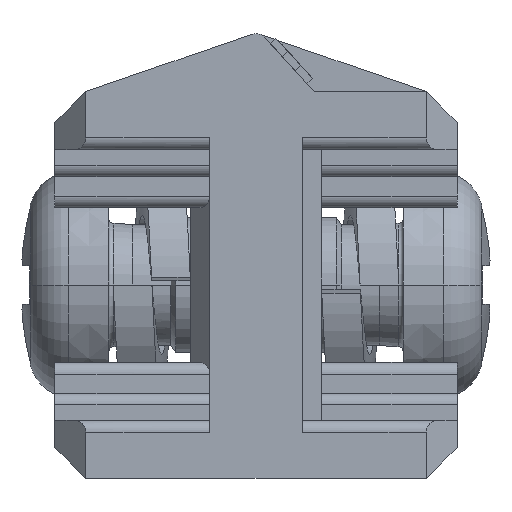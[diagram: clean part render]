
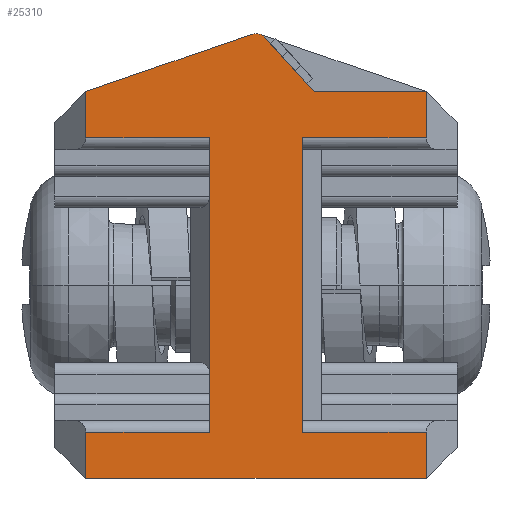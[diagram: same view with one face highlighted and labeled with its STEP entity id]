
A CAD part, left-side view. The second image highlights one B-rep face of the part: STEP entity #25310.
In plain terms, the highlighted planar face has unit normal (-1, 0, 0).
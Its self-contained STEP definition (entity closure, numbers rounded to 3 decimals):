
#24030=CARTESIAN_POINT('',(-63.402,-81.392,
0.));
#24040=DIRECTION('',(1.,-0.,0.));
#24050=DIRECTION('',(0.,0.,-1.));
#24060=AXIS2_PLACEMENT_3D('',#24030,#24040,#24050);
#24070=PLANE('',#24060);
#24080=CARTESIAN_POINT('',(-63.402,-66.942,
5.));
#24090=DIRECTION('',(0.,-0.945,0.326));
#24100=VECTOR('',#24090,1.);
#24110=LINE('',#24080,#24100);
#24120=CARTESIAN_POINT('',(-63.402,-66.942,
5.));
#24130=VERTEX_POINT('',#24120);
#24140=CARTESIAN_POINT('',(-63.402,-71.244,
6.483));
#24150=VERTEX_POINT('',#24140);
#24160=EDGE_CURVE('',#24130,#24150,#24110,.T.);
#24170=ORIENTED_EDGE('',*,*,#24160,.F.);
#24180=CARTESIAN_POINT('',(-63.402,-71.342,
6.2));
#24190=DIRECTION('',(-1.,0.,0.));
#24200=DIRECTION('',(0.,-1.,0.));
#24210=AXIS2_PLACEMENT_3D('',#24180,#24190,#24200);
#24220=CIRCLE('',#24210,0.3);
#24230=CARTESIAN_POINT('',(-63.402,-71.564,
6.402));
#24240=VERTEX_POINT('',#24230);
#24250=EDGE_CURVE('',#24240,#24150,#24220,.T.);
#24260=ORIENTED_EDGE('',*,*,#24250,.T.);
#24270=CARTESIAN_POINT('',(-63.402,-72.842,
5.));
#24280=DIRECTION('',(0.,0.674,0.739));
#24290=VECTOR('',#24280,1.);
#24300=LINE('',#24270,#24290);
#24310=CARTESIAN_POINT('',(-63.402,-72.842,
5.));
#24320=VERTEX_POINT('',#24310);
#24330=EDGE_CURVE('',#24320,#24240,#24300,.T.);
#24340=ORIENTED_EDGE('',*,*,#24330,.T.);
#24350=CARTESIAN_POINT('',(-63.402,-81.392,
5.));
#24360=DIRECTION('',(0.,1.,0.));
#24370=VECTOR('',#24360,1.);
#24380=LINE('',#24350,#24370);
#24390=CARTESIAN_POINT('',(-63.402,-75.742,
5.));
#24400=VERTEX_POINT('',#24390);
#24410=EDGE_CURVE('',#24400,#24320,#24380,.T.);
#24420=ORIENTED_EDGE('',*,*,#24410,.T.);
#24430=CARTESIAN_POINT('',(-63.402,-75.742,
4.4));
#24440=DIRECTION('',(0.,0.,-1.));
#24450=VECTOR('',#24440,1.);
#24460=LINE('',#24430,#24450);
#24470=CARTESIAN_POINT('',(-63.402,-75.742,
3.8));
#24480=VERTEX_POINT('',#24470);
#24490=EDGE_CURVE('',#24400,#24480,#24460,.T.);
#24500=ORIENTED_EDGE('',*,*,#24490,.F.);
#24510=CARTESIAN_POINT('',(-63.402,-81.392,
3.8));
#24520=DIRECTION('',(0.,1.,0.));
#24530=VECTOR('',#24520,1.);
#24540=LINE('',#24510,#24530);
#24550=CARTESIAN_POINT('',(-63.402,-72.542,
3.8));
#24560=VERTEX_POINT('',#24550);
#24570=EDGE_CURVE('',#24480,#24560,#24540,.T.);
#24580=ORIENTED_EDGE('',*,*,#24570,.F.);
#24590=CARTESIAN_POINT('',(-63.402,-72.542,
0.));
#24600=DIRECTION('',(0.,0.,-1.));
#24610=VECTOR('',#24600,1.);
#24620=LINE('',#24590,#24610);
#24630=CARTESIAN_POINT('',(-63.402,-72.542,
-3.8));
#24640=VERTEX_POINT('',#24630);
#24650=EDGE_CURVE('',#24560,#24640,#24620,.T.);
#24660=ORIENTED_EDGE('',*,*,#24650,.F.);
#24670=CARTESIAN_POINT('',(-63.402,-81.392,
-3.8));
#24680=DIRECTION('',(0.,-1.,0.));
#24690=VECTOR('',#24680,1.);
#24700=LINE('',#24670,#24690);
#24710=CARTESIAN_POINT('',(-63.402,-75.742,
-3.8));
#24720=VERTEX_POINT('',#24710);
#24730=EDGE_CURVE('',#24640,#24720,#24700,.T.);
#24740=ORIENTED_EDGE('',*,*,#24730,.F.);
#24750=CARTESIAN_POINT('',(-63.402,-75.742,
-4.4));
#24760=DIRECTION('',(0.,0.,-1.));
#24770=VECTOR('',#24760,1.);
#24780=LINE('',#24750,#24770);
#24790=CARTESIAN_POINT('',(-63.402,-75.742,
-5.));
#24800=VERTEX_POINT('',#24790);
#24810=EDGE_CURVE('',#24720,#24800,#24780,.T.);
#24820=ORIENTED_EDGE('',*,*,#24810,.F.);
#24830=CARTESIAN_POINT('',(-63.402,-66.142,
-5.));
#24840=DIRECTION('',(0.,-1.,0.));
#24850=VECTOR('',#24840,1.);
#24860=LINE('',#24830,#24850);
#24870=CARTESIAN_POINT('',(-63.402,-66.942,
-5.));
#24880=VERTEX_POINT('',#24870);
#24890=EDGE_CURVE('',#24880,#24800,#24860,.T.);
#24900=ORIENTED_EDGE('',*,*,#24890,.T.);
#24910=CARTESIAN_POINT('',(-63.402,-66.942,
0.));
#24920=DIRECTION('',(0.,0.,-1.));
#24930=VECTOR('',#24920,1.);
#24940=LINE('',#24910,#24930);
#24950=CARTESIAN_POINT('',(-63.402,-66.942,
-3.8));
#24960=VERTEX_POINT('',#24950);
#24970=EDGE_CURVE('',#24960,#24880,#24940,.T.);
#24980=ORIENTED_EDGE('',*,*,#24970,.T.);
#24990=CARTESIAN_POINT('',(-63.402,-81.392,
-3.8));
#25000=DIRECTION('',(0.,-1.,0.));
#25010=VECTOR('',#25000,1.);
#25020=LINE('',#24990,#25010);
#25030=CARTESIAN_POINT('',(-63.402,-70.142,
-3.8));
#25040=VERTEX_POINT('',#25030);
#25050=EDGE_CURVE('',#24960,#25040,#25020,.T.);
#25060=ORIENTED_EDGE('',*,*,#25050,.F.);
#25070=CARTESIAN_POINT('',(-63.402,-70.142,
0.));
#25080=DIRECTION('',(0.,0.,1.));
#25090=VECTOR('',#25080,1.);
#25100=LINE('',#25070,#25090);
#25110=CARTESIAN_POINT('',(-63.402,-70.142,
3.8));
#25120=VERTEX_POINT('',#25110);
#25130=EDGE_CURVE('',#25040,#25120,#25100,.T.);
#25140=ORIENTED_EDGE('',*,*,#25130,.F.);
#25150=CARTESIAN_POINT('',(-63.402,-81.392,
3.8));
#25160=DIRECTION('',(0.,1.,0.));
#25170=VECTOR('',#25160,1.);
#25180=LINE('',#25150,#25170);
#25190=CARTESIAN_POINT('',(-63.402,-66.942,
3.8));
#25200=VERTEX_POINT('',#25190);
#25210=EDGE_CURVE('',#25120,#25200,#25180,.T.);
#25220=ORIENTED_EDGE('',*,*,#25210,.F.);
#25230=CARTESIAN_POINT('',(-63.402,-66.942,
0.));
#25240=DIRECTION('',(0.,0.,-1.));
#25250=VECTOR('',#25240,1.);
#25260=LINE('',#25230,#25250);
#25270=EDGE_CURVE('',#24130,#25200,#25260,.T.);
#25280=ORIENTED_EDGE('',*,*,#25270,.T.);
#25290=EDGE_LOOP('',(#25280,#25220,#25140,#25060,#24980,#24900,#24820,
#24740,#24660,#24580,#24500,#24420,#24340,#24260,#24170));
#25300=FACE_OUTER_BOUND('',#25290,.T.);
#25310=ADVANCED_FACE('',(#25300),#24070,.F.);
